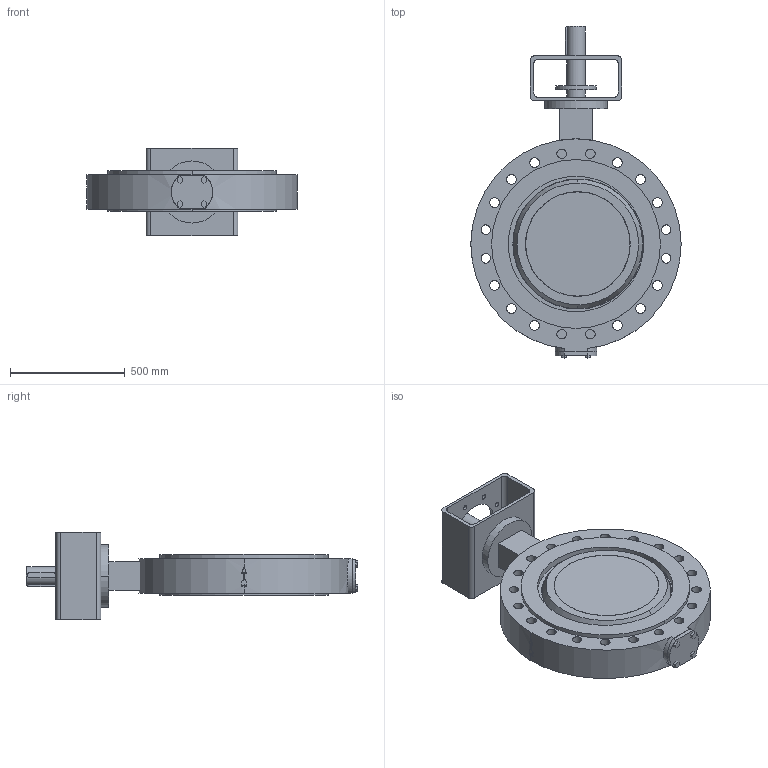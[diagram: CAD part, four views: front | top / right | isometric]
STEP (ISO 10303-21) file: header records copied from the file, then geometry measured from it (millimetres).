
FILE_DESCRIPTION( ( '' ), '1' );
FILE_NAME( 'F:/DE-SHS/TB/OR/04-Sonstiges/daten/files_3d/018_ZETRIX-PN10_freiesWellende/c000006389.stp', '2016-09-01T11:06:16', ( '' ), ( '' ), ' ', ' ', ' ' );
FILE_SCHEMA( ( 'CONFIG_CONTROL_DESIGN' ) );
Length unit declared in the file: millimetre
Products named in the file (1): 1
Bounding box: 915 x 1445 x 381 mm (x, y, z)
Volume: 97166746.5 mm3; surface area: 3771838.7 mm2
Topology: 1 solids, 1 shells, 243 faces, 634 edges, 423 vertices
Faces by surface type: cylinder 135, plane 100, cone 4, sphere 4
Entity records: 8597 total; most frequent: CARTESIAN_POINT 2221, DIRECTION 1377, ORIENTED_EDGE 1268, EDGE_CURVE 634, AXIS2_PLACEMENT_3D 533, VERTEX_POINT 423, EDGE_LOOP 331, LINE 311
